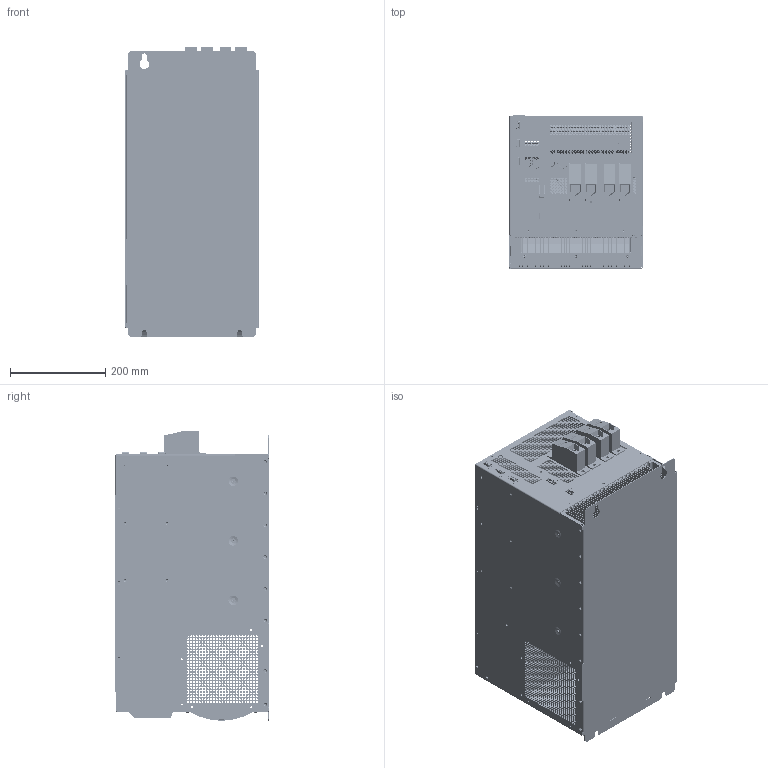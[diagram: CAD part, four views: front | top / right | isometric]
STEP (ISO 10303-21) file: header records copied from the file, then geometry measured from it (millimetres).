
FILE_DESCRIPTION(/* description */ (''),/* implementation_level */ '2;1');
FILE_NAME(/* name */ 'MSD SERVODRIVE DC_AC BG6A',/* time_stamp */ '2010-01-19T14:45:37+01:00',/* author */ (''),/* organization */ (''),/* preprocessor_version */ 'ST-DEVELOPER v9',/* originating_system */ 'UGS - NX 4.0',/* authorisation */ '');
FILE_SCHEMA (('AUTOMOTIVE_DESIGN { 1 0 10303 214 1 1 1 1 }'));
Length unit declared in the file: millimetre
Products named in the file (1): sdum07F0hhcb
Bounding box: 280 x 322.19 x 610.8 mm (x, y, z)
Volume: 6446733.6 mm3; surface area: 5056944.1 mm2
Topology: 96 solids, 96 shells, 14440 faces, 38892 edges, 25465 vertices
Faces by surface type: plane 7546, bspline 4456, cylinder 1977, cone 398, torus 63
Entity records: 596670 total; most frequent: CARTESIAN_POINT 163644, ORIENTED_EDGE 77508, DIRECTION 53869, EDGE_CURVE 38754, VERTEX_POINT 25465, LINE 25177, VECTOR 25177, EDGE_LOOP 19509
